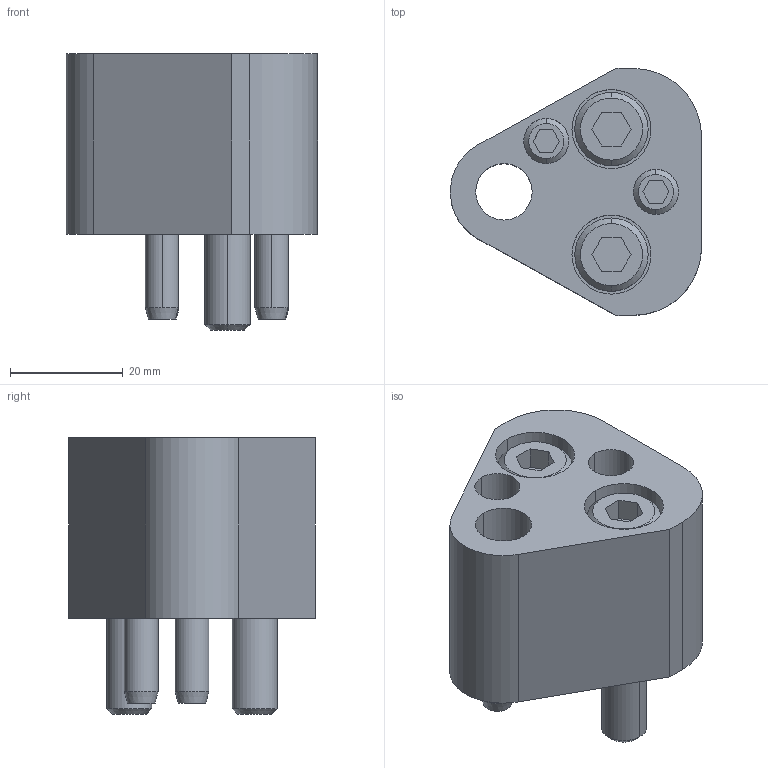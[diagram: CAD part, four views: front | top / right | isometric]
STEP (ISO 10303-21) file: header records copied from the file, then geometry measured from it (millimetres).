
FILE_DESCRIPTION(/* description */ (''),/* implementation_level */ '2;1');
FILE_NAME(/* name */ '3d_crnar10_03626_r00.stp',/* time_stamp */ '2011-01-10T14:16:20+09:00',/* author */ ('MISUMI'),/* organization */ (''),/* preprocessor_version */ 'ST-DEVELOPER v11',/* originating_system */ 'UGS - NX 5.0',/* authorisation */ '');
FILE_SCHEMA (('CONFIG_CONTROL_DESIGN'));
Length unit declared in the file: millimetre
Products named in the file (1): 3d_crnar10_03626_r00
Bounding box: 44.47 x 43.7 x 49 mm (x, y, z)
Volume: 41476.9 mm3; surface area: 16690.6 mm2
Topology: 7 solids, 7 shells, 135 faces, 294 edges, 188 vertices
Faces by surface type: plane 60, cylinder 49, cone 26
Entity records: 3836 total; most frequent: DIRECTION 684, CARTESIAN_POINT 672, ORIENTED_EDGE 588, EDGE_CURVE 294, AXIS2_PLACEMENT_3D 260, VERTEX_POINT 188, LINE 164, VECTOR 164
